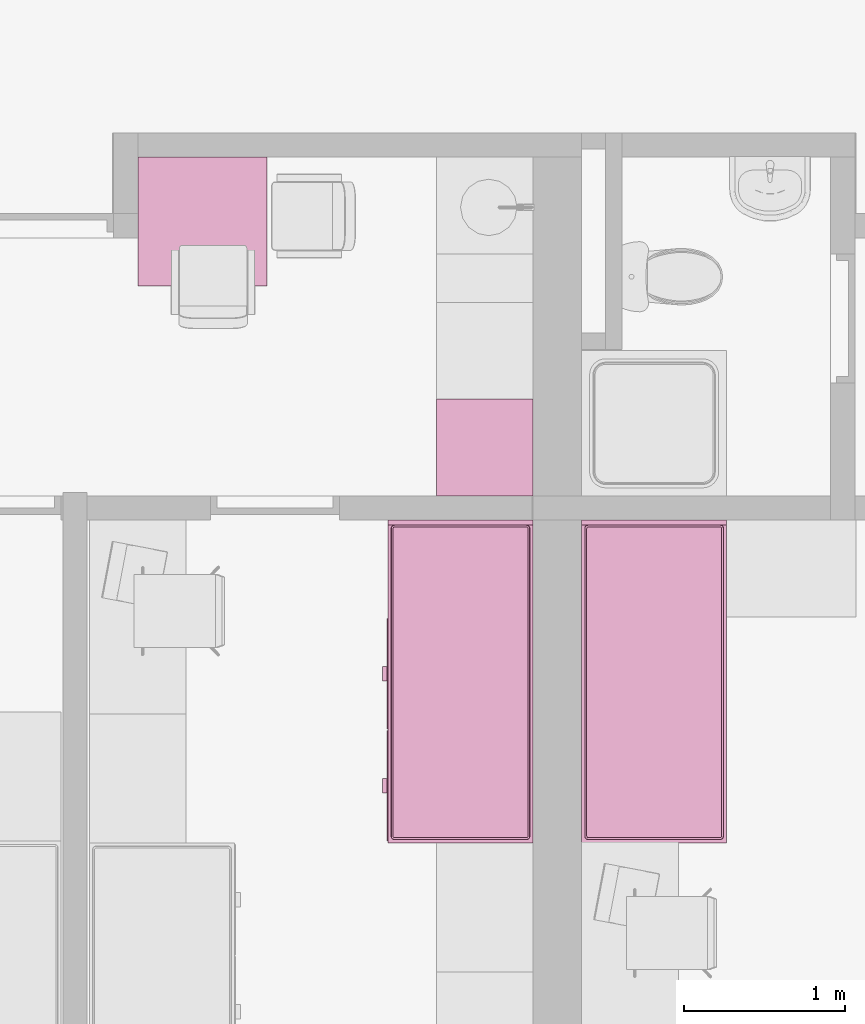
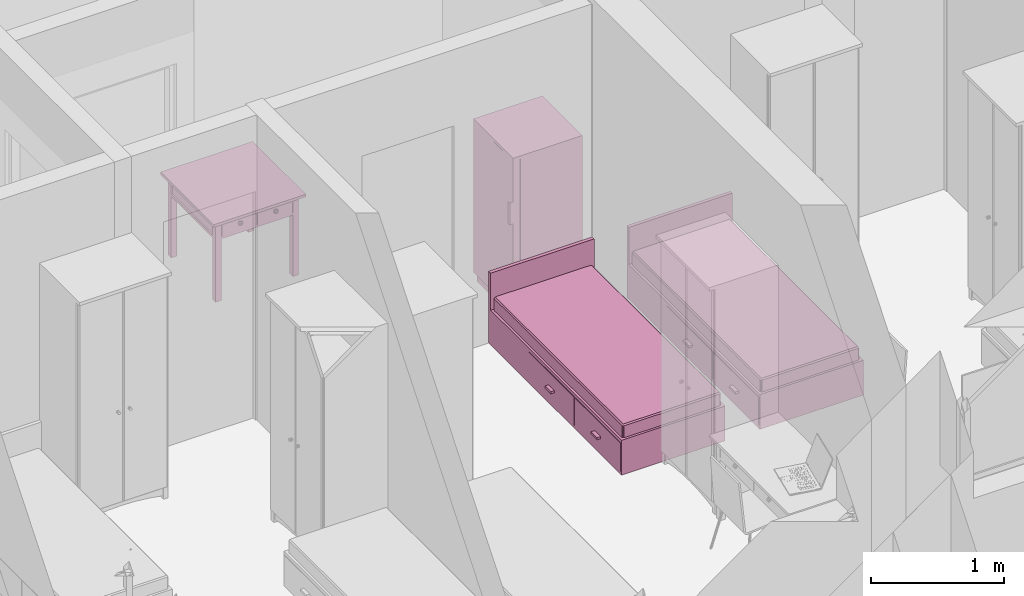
# One storey, part 125 of 165: 4 furnishings.
"""IFC2X3 building model written with IfcOpenShell, lengths in millimetres."""

import ifcopenshell
import ifcopenshell.guid

model = None  # the IFC model being written
_history = None  # IfcOwnerHistory: only IFC2X3 demands one
_inside = {}  # id of a spatial element -> (the spatial element, [elements in it])
_under = {}  # id of a project, library or spatial element -> (it, [spatial elements below it])
_declared = {}  # id of a project -> (the project, [libraries it declares])
_typed = {}  # id of a type object -> (the type object, [elements of that type])
_made_of = {}  # id of a material, layer set ... -> (it, [elements and type objects made of it])


def new_model(schema):
    """Start an empty IFC model of exactly this schema.

    Asked for "IFC4X3", IfcOpenShell would pick the latest addendum, in which some entities
    have other attributes; the version numbers below select the first issue.
    IFC2X3 requires an IfcOwnerHistory on every rooted entity: one is made here for all.
    """
    global model, _history
    if schema == "IFC4X3":
        model = ifcopenshell.file(schema_version=(4, 3, 0, 0))
    else:
        model = ifcopenshell.file(schema=schema)
    _inside.clear()
    _under.clear()
    _declared.clear()
    _typed.clear()
    _made_of.clear()
    _history = None
    if model.schema == "IFC2X3":
        org = make("IfcOrganization", Name="unknown")
        user = make(
            "IfcPersonAndOrganization",
            ThePerson=make("IfcPerson", FamilyName="unknown"),
            TheOrganization=org,
        )
        app = make(
            "IfcApplication",
            ApplicationDeveloper=org,
            Version="unknown",
            ApplicationFullName="unknown",
            ApplicationIdentifier="unknown",
        )
        _history = make(
            "IfcOwnerHistory",
            OwningUser=user,
            OwningApplication=app,
            ChangeAction="ADDED",
            CreationDate=0,
        )
    return model


def make(cls, **values):
    """One entity of the class cls with the attributes given. An attribute that is None is left unset."""
    return model.create_entity(
        cls, **{name: value for name, value in values.items() if value is not None}
    )


def entity(cls, *values):
    """Any entity or typed value of the class cls, its attributes in the order of the schema. None: left unset."""
    e = model.create_entity(cls)
    for i, value in enumerate(values):
        if value is not None:
            e[i] = value
    return e


def rooted(cls, **values):
    """An entity with a GlobalId (a new one), such as an element, a storey or a relation."""
    return make(cls, GlobalId=ifcopenshell.guid.new(), OwnerHistory=_history, **values)


def si_unit(unit_type, name, prefix=None):
    """IfcSIUnit, for example si_unit("LENGTHUNIT", "METRE", prefix="MILLI")."""
    return make("IfcSIUnit", UnitType=unit_type, Prefix=prefix, Name=name)


def converted_unit(unit_type, name, factor, base, dimensions=None, offset=None):
    """IfcConversionBasedUnit, such as the inch: factor (a typed value) times the base unit."""
    return make(
        "IfcConversionBasedUnit"
        if offset is None
        else "IfcConversionBasedUnitWithOffset",
        ConversionOffset=offset,
        Dimensions=None
        if dimensions is None
        else entity("IfcDimensionalExponents", *dimensions),
        UnitType=unit_type,
        Name=name,
        ConversionFactor=make(
            "IfcMeasureWithUnit", ValueComponent=factor, UnitComponent=base
        ),
    )


def money_unit(currency):
    """IfcMonetaryUnit."""
    return make("IfcMonetaryUnit", Currency=currency)


def assignment(units):
    """IfcUnitAssignment: the units of a project."""
    return None if units is None else make("IfcUnitAssignment", Units=units)


def point(xyz):
    """IfcCartesianPoint."""
    return None if xyz is None else make("IfcCartesianPoint", Coordinates=xyz)


def direction(xyz):
    """IfcDirection."""
    return None if xyz is None else make("IfcDirection", DirectionRatios=xyz)


def frame(location, z_axis=None, x_axis=None):
    """IfcAxis2Placement3D, a coordinate frame: its origin and axes. An axis left out is left unset."""
    return make(
        "IfcAxis2Placement3D",
        Location=point(location),
        Axis=direction(z_axis),
        RefDirection=direction(x_axis),
    )


def origin_with_axes():
    """The frame at (0, 0, 0) with the z axis (0, 0, 1) and the x axis (1, 0, 0) written out."""
    return frame((0.0, 0.0, 0.0), z_axis=(0.0, 0.0, 1.0), x_axis=(1.0, 0.0, 0.0))


def place(relative_to, where):
    """IfcLocalPlacement: puts the frame where relative to a parent placement (None: the world)."""
    return make(
        "IfcLocalPlacement", PlacementRelTo=relative_to, RelativePlacement=where
    )


def context(
    kind, dimensions, precision=None, world=None, true_north=None, identifier=None
):
    """IfcGeometricRepresentationContext, for example the 3D "Model" context."""
    return make(
        "IfcGeometricRepresentationContext",
        ContextIdentifier=identifier,
        ContextType=kind,
        CoordinateSpaceDimension=dimensions,
        Precision=precision,
        WorldCoordinateSystem=world,
        TrueNorth=true_north,
    )


def subcontext(parent, identifier, kind, view, scale=None):
    """IfcGeometricRepresentationSubContext, for example "Body" below "Model"."""
    return make(
        "IfcGeometricRepresentationSubContext",
        ContextIdentifier=identifier,
        ContextType=kind,
        ParentContext=parent,
        TargetScale=scale,
        TargetView=view,
    )


def project(units=None, contexts=None):
    """IfcProject with its units and contexts."""
    return rooted(
        "IfcProject",
        Name="project",
        RepresentationContexts=contexts,
        UnitsInContext=assignment(units),
    )


def spatial(cls, under=None, at=None, **own):
    """A site, building, storey or space (cls), placed at a placement, below another one or the project."""
    s = rooted(cls, ObjectPlacement=at, **own)
    if under is not None:
        _under.setdefault(under.id(), (under, []))[1].append(s)
    return s


def faces_of(points, faces, orient=None, outer=None):
    """IfcFace entities. A face is a list of loops; a loop is a list of indices into points, from 0.

    orient and outer hold one flag for each loop. By default every Orientation is true, the
    first loop of a face is its IfcFaceOuterBound and the others are IfcFaceBound.
    """
    made = []
    for i, loops in enumerate(faces):
        bounds = []
        for j, loop in enumerate(loops):
            is_outer = j == 0 if outer is None else outer[i][j]
            bounds.append(
                make(
                    "IfcFaceOuterBound" if is_outer else "IfcFaceBound",
                    Bound=make("IfcPolyLoop", Polygon=[points[k] for k in loop]),
                    Orientation=True if orient is None else orient[i][j],
                )
            )
        made.append(make("IfcFace", Bounds=bounds))
    return made


def open_shell(faces, orient=None, outer=None):
    """The faces of one IfcOpenShell. surface_model builds it on its shared points."""
    return ("IfcOpenShell", faces, orient, outer)


def faceted_brep(points, faces, orient=None, outer=None, voids=None):
    """IfcFacetedBrep: a solid bounded by flat faces; with voids (closed shells), ...WithVoids."""
    shared = [point(p) for p in points]
    hull = make("IfcClosedShell", CfsFaces=faces_of(shared, faces, orient, outer))
    if voids is None:
        return make("IfcFacetedBrep", Outer=hull)
    return make(
        "IfcFacetedBrepWithVoids",
        Outer=hull,
        Voids=[
            make(cls, CfsFaces=faces_of(shared, fs, o, b)) for cls, fs, o, b in voids
        ],
    )


def surface_model(cls, points, shells):
    """IfcFaceBasedSurfaceModel or IfcShellBasedSurfaceModel (cls): surfaces that need not close."""
    shared = [point(p) for p in points]
    made = [make(c, CfsFaces=faces_of(shared, fs, o, b)) for c, fs, o, b in shells]
    if cls == "IfcFaceBasedSurfaceModel":
        return make(cls, FbsmFaces=made)
    return make(cls, SbsmBoundary=made)


def shape(context_of_items, identifier, shape_type, items):
    """IfcShapeRepresentation: the items that make up one representation, for example the "Body"."""
    return make(
        "IfcShapeRepresentation",
        ContextOfItems=context_of_items,
        RepresentationIdentifier=identifier,
        RepresentationType=shape_type,
        Items=items,
    )


def source(mapping_origin, context_of_items, identifier, shape_type, items):
    """IfcRepresentationMap: a shape defined once, which mapped items show again and again."""
    return make(
        "IfcRepresentationMap",
        MappingOrigin=mapping_origin,
        MappedRepresentation=shape(context_of_items, identifier, shape_type, items),
    )


def transform(
    local_origin,
    x_axis=None,
    y_axis=None,
    z_axis=None,
    scale=None,
    scale2=None,
    scale3=None,
    uniform=True,
):
    """IfcCartesianTransformationOperator3D, or its non-uniform kind. x_axis, y_axis, z_axis: its Axis1, 2, 3."""
    if uniform:
        return make(
            "IfcCartesianTransformationOperator3D",
            Axis1=direction(x_axis),
            Axis2=direction(y_axis),
            LocalOrigin=point(local_origin),
            Scale=scale,
            Axis3=direction(z_axis),
        )
    return make(
        "IfcCartesianTransformationOperator3DnonUniform",
        Axis1=direction(x_axis),
        Axis2=direction(y_axis),
        LocalOrigin=point(local_origin),
        Scale=scale,
        Axis3=direction(z_axis),
        Scale2=scale2,
        Scale3=scale3,
    )


def mapped(mapping_source, mapping_target):
    """IfcMappedItem: shows the shape of a source again, moved by a transform."""
    return make(
        "IfcMappedItem", MappingSource=mapping_source, MappingTarget=mapping_target
    )


def material(Name=None, Category=None):
    """IfcMaterial."""
    return make("IfcMaterial", Name=Name, Category=Category)


def material_list(materials):
    """IfcMaterialList."""
    return make("IfcMaterialList", Materials=materials)


def made_of(thing, what):
    """Note that an element or type object is made of a material, layer set ...; save() writes the relation."""
    if what is not None:
        _made_of.setdefault(what.id(), (what, []))[1].append(thing)
    return thing


def type_object(cls, material=None, **own):
    """A type object (cls), such as IfcWallType, which elements share."""
    return made_of(rooted(cls, **own), material)


def element(
    cls,
    number,
    at=None,
    inside=None,
    cuts=None,
    type_object=None,
    material=None,
    context=None,
    identifier="Body",
    shape_type=None,
    held_by="IfcProductDefinitionShape",
    body=None,
    shapes=None,
    **own,
):
    """One element of the class cls, such as IfcWall. Its Tag is "e" and its number.

    at: its placement. inside: the storey or other place that contains it. cuts: it is an
    opening in that element (IfcRelVoidsElement). A single representation is given by context,
    identifier, shape_type and body (its items); several are given by shapes. held_by: the class
    of the entity that holds the representations. save() writes the other relations.
    """
    e = rooted(cls, Tag="e%d" % number, ObjectPlacement=at, **own)
    if body is not None:
        shapes = [shape(context, identifier, shape_type, body)]
    if shapes is not None:
        e.Representation = make(held_by, Representations=shapes)
    if inside is not None:
        _inside.setdefault(inside.id(), (inside, []))[1].append(e)
    if cuts is not None:
        rooted(
            "IfcRelVoidsElement", RelatingBuildingElement=cuts, RelatedOpeningElement=e
        )
    if type_object is not None:
        _typed.setdefault(type_object.id(), (type_object, []))[1].append(e)
    return made_of(e, material)


def aggregate(whole, parts):
    """IfcRelAggregates: a whole, such as a stair, and the parts it consists of."""
    return rooted("IfcRelAggregates", RelatingObject=whole, RelatedObjects=parts)


def save(model, path):
    """Write the relations noted so far, then the file.

    IfcRelAggregates (storeys below a building ...), IfcRelContainedInSpatialStructure (elements
    in a storey), IfcRelDefinesByType, IfcRelAssociatesMaterial and IfcRelDeclares: one each for
    every whole, place, type object, material and project.
    """
    for whole, parts in _under.values():
        aggregate(whole, parts)
    for where, things in _inside.values():
        rooted(
            "IfcRelContainedInSpatialStructure",
            RelatedElements=things,
            RelatingStructure=where,
        )
    for kind, things in _typed.values():
        rooted("IfcRelDefinesByType", RelatedObjects=things, RelatingType=kind)
    for what, things in _made_of.values():
        rooted("IfcRelAssociatesMaterial", RelatedObjects=things, RelatingMaterial=what)
    for by, libraries in _declared.values():
        rooted("IfcRelDeclares", RelatingContext=by, RelatedDefinitions=libraries)
    model.write(path)


model = new_model("IFC2X3")

# Units and contexts
model_context = context("Model", 3, precision=1e-05, world=origin_with_axes(), true_north=direction((0.0, 1.0)))
body_context = subcontext(model_context, "Body", "Model", "MODEL_VIEW")
ifc_project = project(units=[si_unit("LENGTHUNIT", "METRE", prefix="MILLI"), si_unit("AREAUNIT", "SQUARE_METRE"), si_unit("VOLUMEUNIT", "CUBIC_METRE"), converted_unit("PLANEANGLEUNIT", "DEGREE", entity("IfcPlaneAngleMeasure", 0.0174532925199), si_unit("PLANEANGLEUNIT", "RADIAN"), dimensions=[0, 0, 0, 0, 0, 0, 0]), si_unit("SOLIDANGLEUNIT", "STERADIAN"), money_unit("USD"), converted_unit("TIMEUNIT", "Year", entity("IfcTimeMeasure", 31556926.0), si_unit("TIMEUNIT", "SECOND"), dimensions=[0, 0, 0, 0, 0, 0, 0]), si_unit("MASSUNIT", "GRAM"), si_unit("THERMODYNAMICTEMPERATUREUNIT", "DEGREE_CELSIUS"), si_unit("LUMINOUSINTENSITYUNIT", "LUMEN")], contexts=[model_context])

# Site, building, storey
site_placement = place(None, origin_with_axes())
site = spatial("IfcSite", under=ifc_project, at=site_placement, Name="Site", CompositionType="ELEMENT")
building_placement = place(site_placement, origin_with_axes())
building = spatial("IfcBuilding", under=site, at=building_placement, Name="Building", CompositionType="ELEMENT")
storey_placement = place(building_placement, frame((0.0, 0.0, 6300.0), z_axis=(0.0, 0.0, 1.0), x_axis=(1.0, 0.0, 0.0)))
storey = spatial("IfcBuildingStorey", under=building, at=storey_placement, Name="4KORRUS", CompositionType="ELEMENT", Elevation=6300.0)

# Furnishings
ifc_material = material(Name="Background")
ifc_material_list = material_list([ifc_material])
furnishing_element_type_1 = type_object("IfcFurnishingElementType", Name="Bed 19")
shared_shape_1 = source(origin_with_axes(), body_context, "Body", "Brep", [
    faceted_brep([(-900.0, 1970.0, 0.0), (-900.0, 2000.0, 0.0), (0.0, 2000.0, 0.0), (0.0, 1970.0, 0.0), (-900.0, 1970.0, 660.0), (-900.0, 2000.0, 660.0), (0.0, 2000.0, 660.0), (0.0, 1970.0, 660.0)], [[[0, 1, 2, 3]], [[0, 4, 5, 1]], [[1, 5, 6, 2]], [[2, 6, 7, 3]], [[3, 7, 4, 0]], [[7, 6, 5, 4]]]),
    faceted_brep([(-900.0, 0.0, 0.0), (-900.0, 1970.0, 0.0), (0.0, 1970.0, 0.0), (0.0, 0.0, 0.0), (-900.0, 0.0, 320.0), (-900.0, 1970.0, 320.0), (0.0, 1970.0, 320.0), (0.0, 0.0, 320.0)], [[[0, 1, 2, 3]], [[0, 4, 5, 1]], [[1, 5, 6, 2]], [[2, 6, 7, 3]], [[3, 7, 4, 0]], [[7, 6, 5, 4]]]),
    faceted_brep([(-905.0, 10.0, 30.0), (-905.0, 695.0, 30.0), (-900.0, 695.0, 30.0), (-900.0, 10.0, 30.0), (-905.0, 10.0, 290.0), (-905.0, 695.0, 290.0), (-900.0, 695.0, 290.0), (-900.0, 10.0, 290.0)], [[[0, 1, 2, 3]], [[0, 4, 5, 1]], [[1, 5, 6, 2]], [[2, 6, 7, 3]], [[3, 7, 4, 0]], [[7, 6, 5, 4]]]),
    faceted_brep([(-935.0, 307.5, 150.0), (-935.0, 397.5, 150.0), (-905.0, 397.5, 150.0), (-905.0, 307.5, 150.0), (-935.0, 307.5, 170.0), (-935.0, 397.5, 170.0), (-905.0, 397.5, 170.0), (-905.0, 307.5, 170.0)], [[[0, 1, 2, 3]], [[0, 4, 5, 1]], [[1, 5, 6, 2]], [[2, 6, 7, 3]], [[3, 7, 4, 0]], [[7, 6, 5, 4]]]),
    faceted_brep([(-905.0, 705.0, 30.0), (-905.0, 1390.0, 30.0), (-900.0, 1390.0, 30.0), (-900.0, 705.0, 30.0), (-905.0, 705.0, 290.0), (-905.0, 1390.0, 290.0), (-900.0, 1390.0, 290.0), (-900.0, 705.0, 290.0)], [[[0, 1, 2, 3]], [[0, 4, 5, 1]], [[1, 5, 6, 2]], [[2, 6, 7, 3]], [[3, 7, 4, 0]], [[7, 6, 5, 4]]]),
    faceted_brep([(-935.0, 1002.5, 150.0), (-935.0, 1092.5, 150.0), (-905.0, 1092.5, 150.0), (-905.0, 1002.5, 150.0), (-935.0, 1002.5, 170.0), (-935.0, 1092.5, 170.0), (-905.0, 1092.5, 170.0), (-905.0, 1002.5, 170.0)], [[[0, 1, 2, 3]], [[0, 4, 5, 1]], [[1, 5, 6, 2]], [[2, 6, 7, 3]], [[3, 7, 4, 0]], [[7, 6, 5, 4]]]),
    faceted_brep([(-20.0, 40.0, 350.0), (-21.522, 32.346, 350.0), (-25.858, 25.858, 350.0), (-32.346, 21.522, 350.0), (-40.0, 20.0, 350.0), (-860.0, 20.0, 350.0), (-867.654, 21.522, 350.0), (-874.142, 25.858, 350.0), (-878.478, 32.346, 350.0), (-880.0, 40.0, 350.0), (-880.0, 1950.0, 350.0), (-878.478, 1957.654, 350.0), (-874.142, 1964.142, 350.0), (-867.654, 1968.478, 350.0), (-860.0, 1970.0, 350.0), (-40.0, 1970.0, 350.0), (-32.346, 1968.478, 350.0), (-25.858, 1964.142, 350.0), (-21.522, 1957.654, 350.0), (-20.0, 1950.0, 350.0), (-20.0, 40.0, 420.0), (-21.522, 32.346, 420.0), (-25.858, 25.858, 420.0), (-32.346, 21.522, 420.0), (-40.0, 20.0, 420.0), (-860.0, 20.0, 420.0), (-867.654, 21.522, 420.0), (-874.142, 25.858, 420.0), (-878.478, 32.346, 420.0), (-880.0, 40.0, 420.0), (-880.0, 1950.0, 420.0), (-878.478, 1957.654, 420.0), (-874.142, 1964.142, 420.0), (-867.654, 1968.478, 420.0), (-860.0, 1970.0, 420.0), (-40.0, 1970.0, 420.0), (-32.346, 1968.478, 420.0), (-25.858, 1964.142, 420.0), (-21.522, 1957.654, 420.0), (-20.0, 1950.0, 420.0), (-21.522, 40.15, 427.654), (-22.956, 32.94, 427.654), (-26.955, 26.955, 427.654), (-32.94, 22.956, 427.654), (-40.15, 21.522, 427.654), (-859.85, 21.522, 427.654), (-867.06, 22.956, 427.654), (-873.045, 26.955, 427.654), (-877.044, 32.94, 427.654), (-878.478, 40.15, 427.654), (-878.478, 1949.85, 427.654), (-877.044, 1957.06, 427.654), (-873.045, 1963.045, 427.654), (-867.06, 1967.044, 427.654), (-859.85, 1968.478, 427.654), (-40.15, 1968.478, 427.654), (-32.94, 1967.044, 427.654), (-26.955, 1963.045, 427.654), (-22.956, 1957.06, 427.654), (-21.522, 1949.85, 427.654), (-32.346, 41.216, 438.478), (-33.152, 37.164, 438.478), (-34.759, 34.759, 438.478), (-37.164, 33.152, 438.478), (-41.216, 32.346, 438.478), (-858.784, 32.346, 438.478), (-862.836, 33.152, 438.478), (-865.241, 34.759, 438.478), (-866.848, 37.164, 438.478), (-867.654, 41.216, 438.478), (-867.654, 1948.784, 438.478), (-866.848, 1952.836, 438.478), (-865.241, 1955.241, 438.478), (-862.836, 1956.848, 438.478), (-858.784, 1957.654, 438.478), (-41.216, 1957.654, 438.478), (-37.164, 1956.848, 438.478), (-34.759, 1955.241, 438.478), (-33.152, 1952.836, 438.478), (-32.346, 1948.784, 438.478), (-40.0, 41.97, 440.0), (-40.327, 40.327, 440.0), (-40.0, 40.0, 439.924), (-41.97, 40.0, 440.0), (-858.03, 40.0, 440.0), (-859.673, 40.327, 440.0), (-860.0, 40.0, 439.924), (-860.0, 41.97, 440.0), (-860.0, 1948.03, 440.0), (-859.673, 1949.673, 440.0), (-860.0, 1950.0, 439.924), (-858.03, 1950.0, 440.0), (-41.97, 1950.0, 440.0), (-40.327, 1949.673, 440.0), (-40.0, 1950.0, 439.924), (-40.0, 1948.03, 440.0)], [[[0, 1, 2, 3, 4, 5, 6, 7, 8, 9, 10, 11, 12, 13, 14, 15, 16, 17, 18, 19]], [[0, 20, 21, 1]], [[1, 21, 22, 2]], [[2, 22, 23, 3]], [[3, 23, 24, 4]], [[4, 24, 25, 5]], [[5, 25, 26, 6]], [[6, 26, 27, 7]], [[7, 27, 28, 8]], [[8, 28, 29, 9]], [[9, 29, 30, 10]], [[10, 30, 31, 11]], [[11, 31, 32, 12]], [[12, 32, 33, 13]], [[13, 33, 34, 14]], [[14, 34, 35, 15]], [[15, 35, 36, 16]], [[16, 36, 37, 17]], [[17, 37, 38, 18]], [[18, 38, 39, 19]], [[19, 39, 20, 0]], [[20, 40, 41, 21]], [[21, 41, 42, 22]], [[22, 42, 43, 23]], [[23, 43, 44, 24]], [[24, 44, 45, 25]], [[25, 45, 46, 26]], [[26, 46, 47, 27]], [[27, 47, 48, 28]], [[28, 48, 49, 29]], [[29, 49, 50, 30]], [[30, 50, 51, 31]], [[31, 51, 52, 32]], [[32, 52, 53, 33]], [[33, 53, 54, 34]], [[34, 54, 55, 35]], [[35, 55, 56, 36]], [[36, 56, 57, 37]], [[37, 57, 58, 38]], [[38, 58, 59, 39]], [[39, 59, 40, 20]], [[40, 60, 61, 41]], [[41, 61, 62, 42]], [[42, 62, 63, 43]], [[43, 63, 64, 44]], [[44, 64, 65, 45]], [[45, 65, 66, 46]], [[46, 66, 67, 47]], [[47, 67, 68, 48]], [[48, 68, 69, 49]], [[49, 69, 70, 50]], [[50, 70, 71, 51]], [[51, 71, 72, 52]], [[52, 72, 73, 53]], [[53, 73, 74, 54]], [[54, 74, 75, 55]], [[55, 75, 76, 56]], [[56, 76, 77, 57]], [[57, 77, 78, 58]], [[58, 78, 79, 59]], [[59, 79, 60, 40]], [[60, 80, 81, 82, 61]], [[61, 82, 62]], [[62, 82, 63]], [[63, 82, 81, 83, 64]], [[64, 83, 84, 65]], [[65, 84, 85, 86, 66]], [[66, 86, 67]], [[67, 86, 68]], [[68, 86, 85, 87, 69]], [[69, 87, 88, 70]], [[70, 88, 89, 90, 71]], [[71, 90, 72]], [[72, 90, 73]], [[73, 90, 89, 91, 74]], [[74, 91, 92, 75]], [[75, 92, 93, 94, 76]], [[76, 94, 77]], [[77, 94, 78]], [[78, 94, 93, 95, 79]], [[79, 95, 80, 60]], [[95, 93, 92, 91, 89, 88, 87, 85, 84, 83, 81, 80]]]),
    faceted_brep([(-20.0, 40.0, 350.0), (-20.0, 1950.0, 350.0), (-21.522, 1957.654, 350.0), (-25.858, 1964.142, 350.0), (-32.346, 1968.478, 350.0), (-40.0, 1970.0, 350.0), (-860.0, 1970.0, 350.0), (-867.654, 1968.478, 350.0), (-874.142, 1964.142, 350.0), (-878.478, 1957.654, 350.0), (-880.0, 1950.0, 350.0), (-880.0, 40.0, 350.0), (-878.478, 32.346, 350.0), (-874.142, 25.858, 350.0), (-867.654, 21.522, 350.0), (-860.0, 20.0, 350.0), (-40.0, 20.0, 350.0), (-32.346, 21.522, 350.0), (-25.858, 25.858, 350.0), (-21.522, 32.346, 350.0), (-20.0, 40.0, 320.0), (-20.0, 1950.0, 320.0), (-21.522, 1957.654, 320.0), (-25.858, 1964.142, 320.0), (-32.346, 1968.478, 320.0), (-40.0, 1970.0, 320.0), (-860.0, 1970.0, 320.0), (-867.654, 1968.478, 320.0), (-874.142, 1964.142, 320.0), (-878.478, 1957.654, 320.0), (-880.0, 1950.0, 320.0), (-880.0, 40.0, 320.0), (-878.478, 32.346, 320.0), (-874.142, 25.858, 320.0), (-867.654, 21.522, 320.0), (-860.0, 20.0, 320.0), (-40.0, 20.0, 320.0), (-32.346, 21.522, 320.0), (-25.858, 25.858, 320.0), (-21.522, 32.346, 320.0)], [[[0, 1, 2, 3, 4, 5, 6, 7, 8, 9, 10, 11, 12, 13, 14, 15, 16, 17, 18, 19]], [[1, 0, 20, 21]], [[2, 1, 21, 22]], [[3, 2, 22, 23]], [[4, 3, 23, 24]], [[5, 4, 24, 25]], [[6, 5, 25, 26]], [[7, 6, 26, 27]], [[8, 7, 27, 28]], [[9, 8, 28, 29]], [[10, 9, 29, 30]], [[11, 10, 30, 31]], [[12, 11, 31, 32]], [[13, 12, 32, 33]], [[14, 13, 33, 34]], [[15, 14, 34, 35]], [[16, 15, 35, 36]], [[17, 16, 36, 37]], [[18, 17, 37, 38]], [[19, 18, 38, 39]], [[0, 19, 39, 20]], [[20, 39, 38, 37, 36, 35, 34, 33, 32, 31, 30, 29, 28, 27, 26, 25, 24, 23, 22, 21]]]),
])
for number, where, z_axis, x_axis, name in (
    (1, (5709.70329669, -17439.2398994, 0.0), (0.0, 0.0, 1.0), (1.0, 0.0, 0.0), "FU - 013"),
    (2, (6909.70329669, -17439.2398994, 0.0), (0.0, 0.0, 1.0), (1.0, 0.0, 0.0), "FU - 013"),
):
    element("IfcFurnishingElement", number, at=place(storey_placement, frame(where, z_axis=z_axis, x_axis=x_axis)), inside=storey, type_object=furnishing_element_type_1, material=ifc_material_list, Name=name, context=body_context, shape_type="MappedRepresentation", body=[
        mapped(shared_shape_1, transform((0.0, 0.0, 0.0))),
    ])
furnishing_element_type_2 = type_object("IfcFurnishingElementType", Name="Rectangular Table 01 19")
shared_shape_2 = source(origin_with_axes(), body_context, "Body", "Brep", [
    faceted_brep([(90.0, 40.0, 0.0), (40.0, 40.0, 0.0), (40.0, 90.0, 0.0), (90.0, 90.0, 0.0), (90.0, 40.0, 725.0), (40.0, 40.0, 725.0), (40.0, 90.0, 725.0), (90.0, 90.0, 725.0)], [[[0, 1, 2, 3]], [[1, 0, 4, 5]], [[2, 1, 5, 6]], [[3, 2, 6, 7]], [[0, 3, 7, 4]], [[5, 4, 7, 6]]]),
    faceted_brep([(760.0, 40.0, 0.0), (710.0, 40.0, 0.0), (710.0, 90.0, 0.0), (760.0, 90.0, 0.0), (760.0, 40.0, 725.0), (710.0, 40.0, 725.0), (710.0, 90.0, 725.0), (760.0, 90.0, 725.0)], [[[0, 1, 2, 3]], [[1, 0, 4, 5]], [[2, 1, 5, 6]], [[3, 2, 6, 7]], [[0, 3, 7, 4]], [[5, 4, 7, 6]]]),
    faceted_brep([(90.0, 710.0, 0.0), (40.0, 710.0, 0.0), (40.0, 760.0, 0.0), (90.0, 760.0, 0.0), (90.0, 710.0, 725.0), (40.0, 710.0, 725.0), (40.0, 760.0, 725.0), (90.0, 760.0, 725.0)], [[[0, 1, 2, 3]], [[1, 0, 4, 5]], [[2, 1, 5, 6]], [[3, 2, 6, 7]], [[0, 3, 7, 4]], [[5, 4, 7, 6]]]),
    faceted_brep([(760.0, 710.0, 0.0), (710.0, 710.0, 0.0), (710.0, 760.0, 0.0), (760.0, 760.0, 0.0), (760.0, 710.0, 725.0), (710.0, 710.0, 725.0), (710.0, 760.0, 725.0), (760.0, 760.0, 725.0)], [[[0, 1, 2, 3]], [[1, 0, 4, 5]], [[2, 1, 5, 6]], [[3, 2, 6, 7]], [[0, 3, 7, 4]], [[5, 4, 7, 6]]]),
    faceted_brep([(760.0, 40.0, 565.0), (40.0, 40.0, 565.0), (40.0, 760.0, 565.0), (760.0, 760.0, 565.0), (760.0, 40.0, 585.0), (40.0, 40.0, 585.0), (40.0, 760.0, 585.0), (760.0, 760.0, 585.0)], [[[0, 1, 2, 3]], [[1, 0, 4, 5]], [[2, 1, 5, 6]], [[3, 2, 6, 7]], [[0, 3, 7, 4]], [[5, 4, 7, 6]]]),
    faceted_brep([(710.0, 52.5, 585.0), (90.0, 52.5, 585.0), (90.0, 77.5, 585.0), (710.0, 77.5, 585.0), (710.0, 52.5, 745.0), (90.0, 52.5, 745.0), (90.0, 77.5, 745.0), (710.0, 77.5, 745.0)], [[[0, 1, 2, 3]], [[1, 0, 4, 5]], [[2, 1, 5, 6]], [[3, 2, 6, 7]], [[0, 3, 7, 4]], [[5, 4, 7, 6]]]),
    faceted_brep([(77.5, 90.0, 585.0), (52.5, 90.0, 585.0), (52.5, 710.0, 585.0), (77.5, 710.0, 585.0), (77.5, 90.0, 745.0), (52.5, 90.0, 745.0), (52.5, 710.0, 745.0), (77.5, 710.0, 745.0)], [[[0, 1, 2, 3]], [[1, 0, 4, 5]], [[2, 1, 5, 6]], [[3, 2, 6, 7]], [[0, 3, 7, 4]], [[5, 4, 7, 6]]]),
    faceted_brep([(90.0, 747.5, 585.0), (710.0, 747.5, 585.0), (710.0, 722.5, 585.0), (90.0, 722.5, 585.0), (90.0, 747.5, 745.0), (710.0, 747.5, 745.0), (710.0, 722.5, 745.0), (90.0, 722.5, 745.0)], [[[0, 1, 2, 3]], [[1, 0, 4, 5]], [[2, 1, 5, 6]], [[3, 2, 6, 7]], [[0, 3, 7, 4]], [[5, 4, 7, 6]]]),
    faceted_brep([(722.5, 710.0, 585.0), (747.5, 710.0, 585.0), (747.5, 90.0, 585.0), (722.5, 90.0, 585.0), (722.5, 710.0, 745.0), (747.5, 710.0, 745.0), (747.5, 90.0, 745.0), (722.5, 90.0, 745.0)], [[[0, 1, 2, 3]], [[1, 0, 4, 5]], [[2, 1, 5, 6]], [[3, 2, 6, 7]], [[0, 3, 7, 4]], [[5, 4, 7, 6]]]),
    faceted_brep([(397.5, 40.0, 585.0), (95.0, 40.0, 585.0), (95.0, 60.0, 585.0), (397.5, 60.0, 585.0), (397.5, 40.0, 745.0), (95.0, 40.0, 745.0), (95.0, 60.0, 745.0), (397.5, 60.0, 745.0)], [[[0, 1, 2, 3]], [[1, 0, 4, 5]], [[2, 1, 5, 6]], [[3, 2, 6, 7]], [[0, 3, 7, 4]], [[5, 4, 7, 6]]]),
    faceted_brep([(705.0, 40.0, 585.0), (402.5, 40.0, 585.0), (402.5, 60.0, 585.0), (705.0, 60.0, 585.0), (705.0, 40.0, 745.0), (402.5, 40.0, 745.0), (402.5, 60.0, 745.0), (705.0, 60.0, 745.0)], [[[0, 1, 2, 3]], [[1, 0, 4, 5]], [[2, 1, 5, 6]], [[3, 2, 6, 7]], [[0, 3, 7, 4]], [[5, 4, 7, 6]]]),
    faceted_brep([(254.91, 40.0, 660.0), (251.25, 40.0, 656.34), (246.25, 40.0, 655.0), (241.25, 40.0, 656.34), (237.59, 40.0, 660.0), (236.25, 40.0, 665.0), (237.59, 40.0, 670.0), (241.25, 40.0, 673.66), (246.25, 40.0, 675.0), (251.25, 40.0, 673.66), (254.91, 40.0, 670.0), (256.25, 40.0, 665.0), (254.91, 25.0, 660.0), (251.25, 25.0, 656.34), (246.25, 25.0, 655.0), (241.25, 25.0, 656.34), (237.59, 25.0, 660.0), (236.25, 25.0, 665.0), (237.59, 25.0, 670.0), (241.25, 25.0, 673.66), (246.25, 25.0, 675.0), (251.25, 25.0, 673.66), (254.91, 25.0, 670.0), (256.25, 25.0, 665.0)], [[[0, 1, 2, 3, 4, 5, 6, 7, 8, 9, 10, 11]], [[1, 0, 12, 13]], [[2, 1, 13, 14]], [[3, 2, 14, 15]], [[4, 3, 15, 16]], [[5, 4, 16, 17]], [[6, 5, 17, 18]], [[7, 6, 18, 19]], [[8, 7, 19, 20]], [[9, 8, 20, 21]], [[10, 9, 21, 22]], [[11, 10, 22, 23]], [[0, 11, 23, 12]], [[12, 23, 22, 21, 20, 19, 18, 17, 16, 15, 14, 13]]]),
    faceted_brep([(256.25, 12.01, 665.0), (246.25, 10.0, 665.0), (254.91, 12.01, 660.0), (254.91, 12.01, 670.0), (251.25, 12.01, 656.34), (263.571, 17.5, 665.0), (261.25, 17.5, 656.34), (251.25, 12.01, 673.66), (261.25, 17.5, 673.66), (246.25, 12.01, 655.0), (254.91, 17.5, 650.0), (266.25, 25.0, 665.0), (263.571, 25.0, 655.0), (246.25, 12.01, 675.0), (254.91, 17.5, 680.0), (263.571, 25.0, 675.0), (241.25, 12.01, 656.34), (246.25, 17.5, 647.679), (256.25, 25.0, 647.679), (246.25, 25.0, 645.0), (236.25, 25.0, 647.679), (228.929, 25.0, 655.0), (226.25, 25.0, 665.0), (228.929, 25.0, 675.0), (236.25, 25.0, 682.321), (246.25, 25.0, 685.0), (256.25, 25.0, 682.321), (241.25, 12.01, 673.66), (246.25, 17.5, 682.321), (237.59, 12.01, 660.0), (237.59, 17.5, 650.0), (231.25, 17.5, 656.34), (228.929, 17.5, 665.0), (231.25, 17.5, 673.66), (237.59, 17.5, 680.0), (237.59, 12.01, 670.0), (236.25, 12.01, 665.0)], [[[0, 1, 2]], [[3, 1, 0]], [[2, 1, 4]], [[5, 0, 2, 6]], [[7, 1, 3]], [[8, 3, 0, 5]], [[4, 1, 9]], [[6, 2, 4, 10]], [[11, 5, 6, 12]], [[13, 1, 7]], [[14, 7, 3, 8]], [[15, 8, 5, 11]], [[9, 1, 16]], [[10, 4, 9, 17]], [[12, 6, 10, 18]], [[12, 18, 19, 20, 21, 22, 23, 24, 25, 26, 15, 11]], [[27, 1, 13]], [[28, 13, 7, 14]], [[26, 14, 8, 15]], [[16, 1, 29]], [[17, 9, 16, 30]], [[18, 10, 17, 19]], [[19, 17, 30, 20]], [[20, 30, 31, 21]], [[21, 31, 32, 22]], [[22, 32, 33, 23]], [[23, 33, 34, 24]], [[24, 34, 28, 25]], [[25, 28, 14, 26]], [[35, 1, 27]], [[34, 27, 13, 28]], [[29, 1, 36]], [[30, 16, 29, 31]], [[31, 29, 36, 32]], [[32, 36, 35, 33]], [[33, 35, 27, 34]], [[36, 1, 35]]]),
    faceted_brep([(562.41, 40.0, 660.0), (558.75, 40.0, 656.34), (553.75, 40.0, 655.0), (548.75, 40.0, 656.34), (545.09, 40.0, 660.0), (543.75, 40.0, 665.0), (545.09, 40.0, 670.0), (548.75, 40.0, 673.66), (553.75, 40.0, 675.0), (558.75, 40.0, 673.66), (562.41, 40.0, 670.0), (563.75, 40.0, 665.0), (562.41, 25.0, 660.0), (558.75, 25.0, 656.34), (553.75, 25.0, 655.0), (548.75, 25.0, 656.34), (545.09, 25.0, 660.0), (543.75, 25.0, 665.0), (545.09, 25.0, 670.0), (548.75, 25.0, 673.66), (553.75, 25.0, 675.0), (558.75, 25.0, 673.66), (562.41, 25.0, 670.0), (563.75, 25.0, 665.0)], [[[0, 1, 2, 3, 4, 5, 6, 7, 8, 9, 10, 11]], [[1, 0, 12, 13]], [[2, 1, 13, 14]], [[3, 2, 14, 15]], [[4, 3, 15, 16]], [[5, 4, 16, 17]], [[6, 5, 17, 18]], [[7, 6, 18, 19]], [[8, 7, 19, 20]], [[9, 8, 20, 21]], [[10, 9, 21, 22]], [[11, 10, 22, 23]], [[0, 11, 23, 12]], [[12, 23, 22, 21, 20, 19, 18, 17, 16, 15, 14, 13]]]),
    faceted_brep([(563.75, 12.01, 665.0), (553.75, 10.0, 665.0), (562.41, 12.01, 660.0), (562.41, 12.01, 670.0), (558.75, 12.01, 656.34), (571.071, 17.5, 665.0), (568.75, 17.5, 656.34), (558.75, 12.01, 673.66), (568.75, 17.5, 673.66), (553.75, 12.01, 655.0), (562.41, 17.5, 650.0), (573.75, 25.0, 665.0), (571.071, 25.0, 655.0), (553.75, 12.01, 675.0), (562.41, 17.5, 680.0), (571.071, 25.0, 675.0), (548.75, 12.01, 656.34), (553.75, 17.5, 647.679), (563.75, 25.0, 647.679), (553.75, 25.0, 645.0), (543.75, 25.0, 647.679), (536.429, 25.0, 655.0), (533.75, 25.0, 665.0), (536.429, 25.0, 675.0), (543.75, 25.0, 682.321), (553.75, 25.0, 685.0), (563.75, 25.0, 682.321), (548.75, 12.01, 673.66), (553.75, 17.5, 682.321), (545.09, 12.01, 660.0), (545.09, 17.5, 650.0), (538.75, 17.5, 656.34), (536.429, 17.5, 665.0), (538.75, 17.5, 673.66), (545.09, 17.5, 680.0), (545.09, 12.01, 670.0), (543.75, 12.01, 665.0)], [[[0, 1, 2]], [[3, 1, 0]], [[2, 1, 4]], [[5, 0, 2, 6]], [[7, 1, 3]], [[8, 3, 0, 5]], [[4, 1, 9]], [[6, 2, 4, 10]], [[11, 5, 6, 12]], [[13, 1, 7]], [[14, 7, 3, 8]], [[15, 8, 5, 11]], [[9, 1, 16]], [[10, 4, 9, 17]], [[12, 6, 10, 18]], [[12, 18, 19, 20, 21, 22, 23, 24, 25, 26, 15, 11]], [[27, 1, 13]], [[28, 13, 7, 14]], [[26, 14, 8, 15]], [[16, 1, 29]], [[17, 9, 16, 30]], [[18, 10, 17, 19]], [[19, 17, 30, 20]], [[20, 30, 31, 21]], [[21, 31, 32, 22]], [[22, 32, 33, 23]], [[23, 33, 34, 24]], [[24, 34, 28, 25]], [[25, 28, 14, 26]], [[35, 1, 27]], [[34, 27, 13, 28]], [[29, 1, 36]], [[30, 16, 29, 31]], [[31, 29, 36, 32]], [[32, 36, 35, 33]], [[33, 35, 27, 34]], [[36, 1, 35]]]),
    faceted_brep([(800.0, 0.0, 725.0), (0.0, 0.0, 725.0), (0.0, 800.0, 725.0), (800.0, 800.0, 725.0), (800.0, 0.0, 750.0), (0.0, 0.0, 750.0), (0.0, 800.0, 750.0), (800.0, 800.0, 750.0)], [[[0, 1, 2, 3]], [[1, 0, 4, 5]], [[2, 1, 5, 6]], [[3, 2, 6, 7]], [[0, 3, 7, 4]], [[5, 4, 7, 6]]]),
])
furnishing_1_placement = place(storey_placement, frame((3259.55735712, -13989.3705726, 0.0), z_axis=(0.0, 0.0, 1.0), x_axis=(1.0, 0.0, 0.0)))
element("IfcFurnishingElement", 3, at=furnishing_1_placement, inside=storey, type_object=furnishing_element_type_2, material=ifc_material_list, Name="FU - 011", context=body_context, shape_type="MappedRepresentation", body=[
    mapped(shared_shape_2, transform((0.0, 0.0, 0.0))),
])
furnishing_element_type_3 = type_object("IfcFurnishingElementType", Name="Refrigerator 19")
shared_shape_3 = source(origin_with_axes(), body_context, "Body", "SurfaceModel", [
    faceted_brep([(0.0, 0.0, 1475.0), (600.0, 0.0, 1475.0), (600.0, 0.0, 1500.0), (0.0, 0.0, 1500.0), (0.0, 600.0, 1475.0), (600.0, 600.0, 1475.0), (600.0, 600.0, 1500.0), (0.0, 600.0, 1500.0)], [[[0, 1, 2, 3]], [[0, 4, 5, 1]], [[1, 5, 6, 2]], [[3, 2, 6, 7]], [[4, 0, 3, 7]], [[5, 4, 7, 6]]]),
    faceted_brep([(0.0, 65.0, 0.0), (600.0, 65.0, 0.0), (600.0, 65.0, 1475.0), (0.0, 65.0, 1475.0), (0.0, 600.0, 0.0), (600.0, 600.0, 0.0), (600.0, 600.0, 1475.0), (0.0, 600.0, 1475.0)], [[[0, 1, 2, 3]], [[0, 4, 5, 1]], [[1, 5, 6, 2]], [[3, 2, 6, 7]], [[4, 0, 3, 7]], [[5, 4, 7, 6]]]),
    faceted_brep([(0.0, 30.0, 0.0), (600.0, 30.0, 0.0), (600.0, 30.0, 90.0), (0.0, 30.0, 90.0), (0.0, 60.0, 0.0), (600.0, 60.0, 0.0), (600.0, 60.0, 90.0), (0.0, 60.0, 90.0)], [[[0, 1, 2, 3]], [[0, 4, 5, 1]], [[1, 5, 6, 2]], [[3, 2, 6, 7]], [[4, 0, 3, 7]], [[5, 4, 7, 6]]]),
    faceted_brep([(0.0, 60.0, 90.0), (600.0, 60.0, 90.0), (600.0, 0.0, 90.0), (0.0, 0.0, 90.0), (0.0, 60.0, 1474.5), (600.0, 60.0, 1474.5), (600.0, 0.0, 1474.5), (0.0, 0.0, 1474.5)], [[[0, 1, 2, 3]], [[0, 4, 5, 1]], [[1, 5, 6, 2]], [[3, 2, 6, 7]], [[4, 0, 3, 7]], [[5, 4, 7, 6]]]),
    surface_model("IfcShellBasedSurfaceModel", [(600.0, -30.0, 900.0), (600.0, -30.0, 1100.0), (600.0, 0.0, 1100.0), (600.0, 0.0, 900.0)], [open_shell([[[0, 1, 2, 3]]])]),
    surface_model("IfcShellBasedSurfaceModel", [(600.0, -30.0, 900.0), (600.0, -30.0, 1100.0), (570.0, -30.0, 1100.0), (570.0, -30.0, 900.0)], [open_shell([[[0, 1, 2, 3]]])]),
])
furnishing_2_placement = place(storey_placement, frame((5109.70329669, -14689.2398994, 0.0), z_axis=(0.0, 0.0, 1.0), x_axis=(0.0, -1.0, 0.0)))
element("IfcFurnishingElement", 4, at=furnishing_2_placement, inside=storey, type_object=furnishing_element_type_3, material=ifc_material_list, Name="FU - 007", context=body_context, shape_type="MappedRepresentation", body=[
    mapped(shared_shape_3, transform((0.0, 0.0, 0.0))),
])

save(model, "model.ifc")
